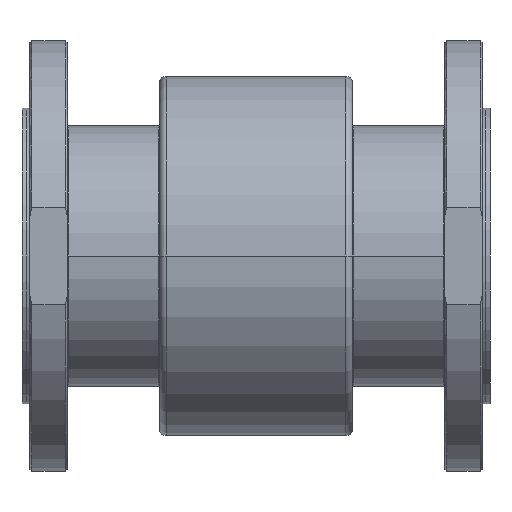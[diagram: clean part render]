
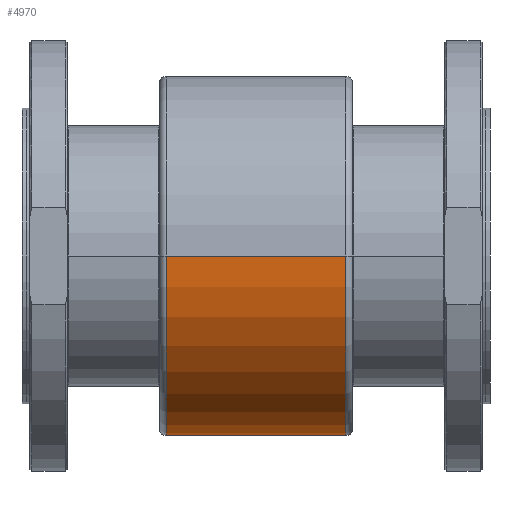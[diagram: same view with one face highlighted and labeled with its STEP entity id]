
A CAD part, front view. The second image highlights one B-rep face of the part: STEP entity #4970.
In plain terms, the highlighted cylindrical face has radius 96 mm (diameter 192 mm), a partial arc.
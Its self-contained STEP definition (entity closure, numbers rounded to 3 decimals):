
#738 = EDGE_CURVE ( 'NONE', #6588, #21570, #21503, .T. ) ;
#1986 = DIRECTION ( 'NONE',  ( -1., 0., 0. ) ) ;
#3439 = DIRECTION ( 'NONE',  ( -1., 0., 0. ) ) ;
#3833 = CARTESIAN_POINT ( 'NONE',  ( -82.051, -96., 0. ) ) ;
#4226 = VERTEX_POINT ( 'NONE', #21466 ) ;
#4970 = ADVANCED_FACE ( 'NONE', ( #12782 ), #9173, .T. ) ;
#5607 = CARTESIAN_POINT ( 'NONE',  ( -48., 0., -96. ) ) ;
#6588 = VERTEX_POINT ( 'NONE', #15508 ) ;
#7088 = VECTOR ( 'NONE', #3439, 1000. ) ;
#7257 = ORIENTED_EDGE ( 'NONE', *, *, #7318, .T. ) ;
#7318 = EDGE_CURVE ( 'NONE', #20128, #6588, #8385, .T. ) ;
#8385 = CIRCLE ( 'NONE', #18321, 96. ) ;
#9148 = CARTESIAN_POINT ( 'NONE',  ( -82.051, 0., 0. ) ) ;
#9173 = CYLINDRICAL_SURFACE ( 'NONE', #22861, 96. ) ;
#9228 = DIRECTION ( 'NONE',  ( 0., -1., 0. ) ) ;
#10258 = DIRECTION ( 'NONE',  ( -1., 0., 0. ) ) ;
#10563 = EDGE_LOOP ( 'NONE', ( #7257, #24297, #22768, #13494 ) ) ;
#10890 = AXIS2_PLACEMENT_3D ( 'NONE', #13312, #1986, #15175 ) ;
#12782 = FACE_OUTER_BOUND ( 'NONE', #10563, .T. ) ;
#13312 = CARTESIAN_POINT ( 'NONE',  ( -48., 0., 0. ) ) ;
#13494 = ORIENTED_EDGE ( 'NONE', *, *, #17603, .F. ) ;
#14133 = VECTOR ( 'NONE', #16915, 1000. ) ;
#15175 = DIRECTION ( 'NONE',  ( 0., -1., 0. ) ) ;
#15508 = CARTESIAN_POINT ( 'NONE',  ( 48., -96., 0. ) ) ;
#16915 = DIRECTION ( 'NONE',  ( -1., 0., 0. ) ) ;
#17603 = EDGE_CURVE ( 'NONE', #20128, #4226, #19090, .T. ) ;
#18321 = AXIS2_PLACEMENT_3D ( 'NONE', #21458, #10258, #23354 ) ;
#18502 = CARTESIAN_POINT ( 'NONE',  ( 48., 0., -96. ) ) ;
#18537 = DIRECTION ( 'NONE',  ( -1., 0., 0. ) ) ;
#19090 = LINE ( 'NONE', #5607, #14133 ) ;
#19797 = CARTESIAN_POINT ( 'NONE',  ( -48., -96., 0. ) ) ;
#20128 = VERTEX_POINT ( 'NONE', #18502 ) ;
#21320 = EDGE_CURVE ( 'NONE', #4226, #21570, #23952, .T. ) ;
#21458 = CARTESIAN_POINT ( 'NONE',  ( 48., 0., 0. ) ) ;
#21466 = CARTESIAN_POINT ( 'NONE',  ( -48., 0., -96. ) ) ;
#21503 = LINE ( 'NONE', #3833, #7088 ) ;
#21570 = VERTEX_POINT ( 'NONE', #19797 ) ;
#22768 = ORIENTED_EDGE ( 'NONE', *, *, #21320, .F. ) ;
#22861 = AXIS2_PLACEMENT_3D ( 'NONE', #9148, #18537, #9228 ) ;
#23354 = DIRECTION ( 'NONE',  ( 0., -1., 0. ) ) ;
#23952 = CIRCLE ( 'NONE', #10890, 96. ) ;
#24297 = ORIENTED_EDGE ( 'NONE', *, *, #738, .T. ) ;
